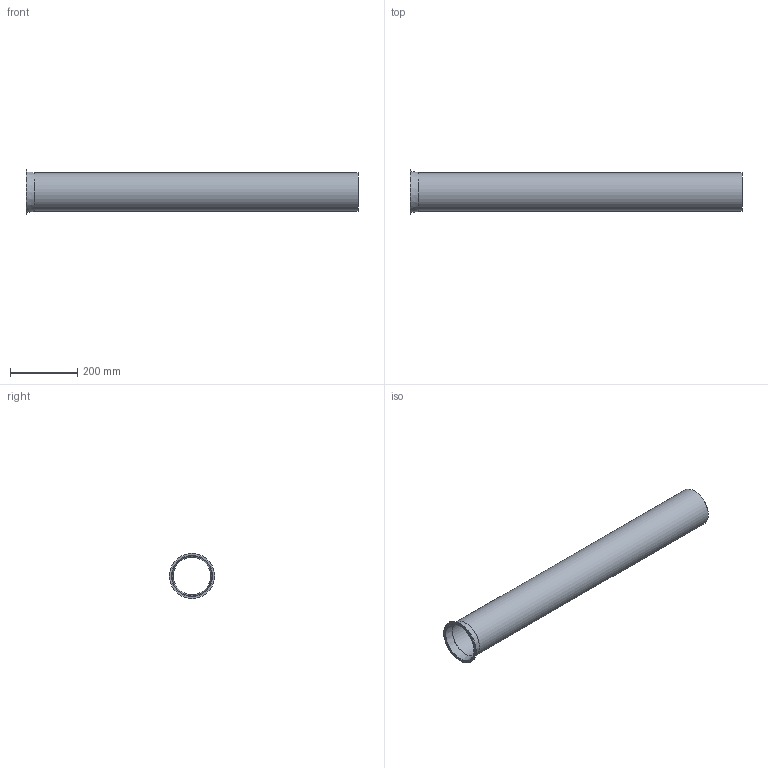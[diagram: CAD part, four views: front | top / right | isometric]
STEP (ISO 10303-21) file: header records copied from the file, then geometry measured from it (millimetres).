
FILE_DESCRIPTION((''),'2;1');
FILE_NAME('U:\Wolfgang\Marcel-3D\fertig\Kapitel 1\1211006.stp','2010-05-31T11:02:52',('TK2'),(''),'Autodesk Inventor 2010','Autodesk Inventor 2010','');
FILE_SCHEMA(('AUTOMOTIVE_DESIGN { 1 0 10303 214 1 1 1 1 }'));
Length unit declared in the file: millimetre
Products named in the file (1): 1211006
Bounding box: 991 x 135 x 135 mm (x, y, z)
Volume: 715388.3 mm3; surface area: 716941.8 mm2
Topology: 1 solids, 1 shells, 8 faces, 14 edges, 9 vertices
Faces by surface type: cylinder 3, plane 3, cone 2
Full cylindrical faces by diameter (mm): 112 x1, 116 x1, 135 x1
Entity records: 194 total; most frequent: DIRECTION 34, CARTESIAN_POINT 25, AXIS2_PLACEMENT_3D 17, ORIENTED_EDGE 16, EDGE_LOOP 16, VERTEX_POINT 8, CIRCLE 8, EDGE_CURVE 8
